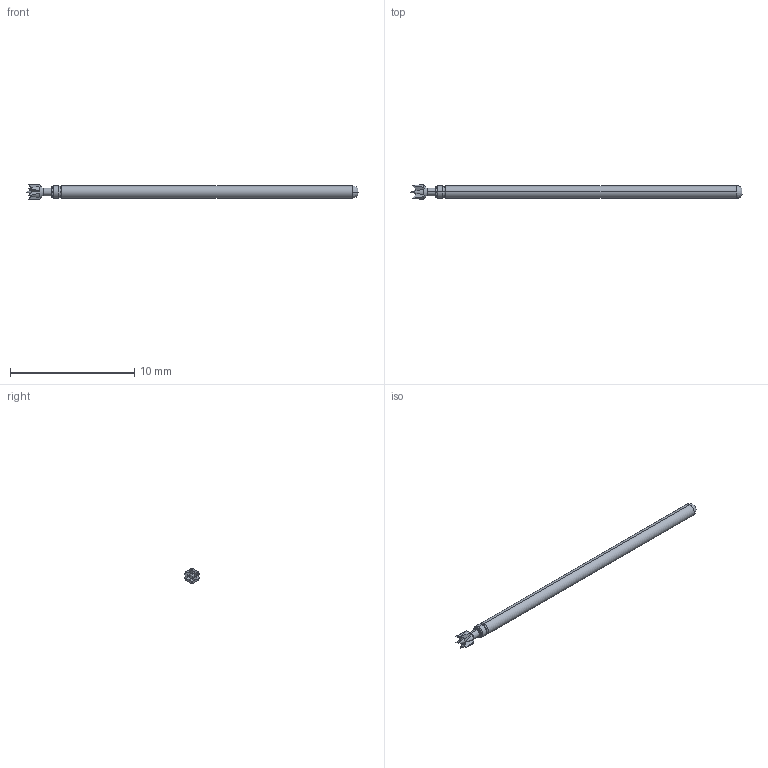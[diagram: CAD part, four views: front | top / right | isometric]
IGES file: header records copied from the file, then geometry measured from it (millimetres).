
Start section: SolidWorks IGES file using analytic representation for surfaces
Global section: file name: Z:\probe solid model mockups\Solidworks models\Parts\LFRE-1V FULL.IGS; native system: SolidWorks 2016; preprocessor: SolidWorks 2016; author: mlee; date: 180927.164157; units: inch
Bounding box: 26.67 x 1.18 x 1.19 mm (x, y, z)
Surface area: 86.2 mm2 (no closed solid volume)
Topology: 0 solids, 0 shells, 43 faces, 274 edges, 272 vertices
Faces by surface type: revolution 25, bspline 18
